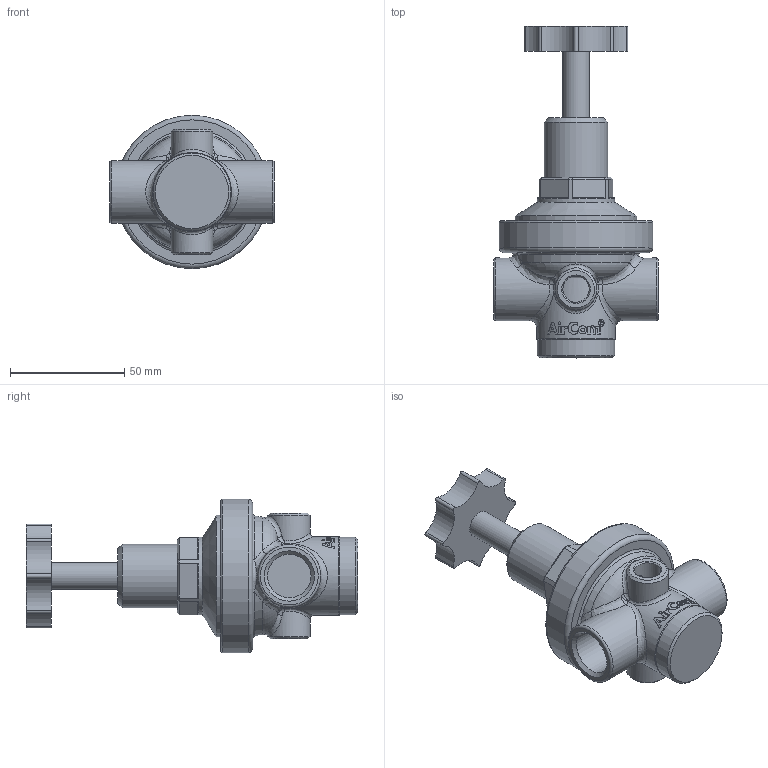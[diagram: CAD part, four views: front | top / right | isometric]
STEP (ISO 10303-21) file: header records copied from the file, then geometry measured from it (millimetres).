
FILE_DESCRIPTION((''),'2;1');
FILE_NAME('F:\AirCom-Produktdokumentation\Druckregler\R280\CAD\CAD AirCom\3D\B-R280-04A.stp','2008-10-14T11:36:15',('Frank Schroers'),(''),'Autodesk Inventor 2008','Autodesk Inventor 2008','');
FILE_SCHEMA(('AUTOMOTIVE_DESIGN { 1 0 10303 214 1 1 1 1 }'));
Length unit declared in the file: millimetre
Products named in the file (1): B-R280-04
Bounding box: 72 x 145 x 67 mm (x, y, z)
Volume: 172495.8 mm3; surface area: 29020.6 mm2
Topology: 1 solids, 1 shells, 199 faces, 481 edges, 304 vertices
Faces by surface type: plane 68, bspline 51, cylinder 49, cone 17, torus 14
Full cylindrical faces by diameter (mm): 11.47 x2, 11.8 x1, 19 x2, 27.34 x2, 27.8 x1, 34 x2, 34.399 x1, 53 x1, 67.003 x1
Entity records: 18924 total; most frequent: CARTESIAN_POINT 14769, ORIENTED_EDGE 878, DIRECTION 739, EDGE_CURVE 439, AXIS2_PLACEMENT_3D 307, VERTEX_POINT 290, EDGE_LOOP 247, FACE_OUTER_BOUND 199
